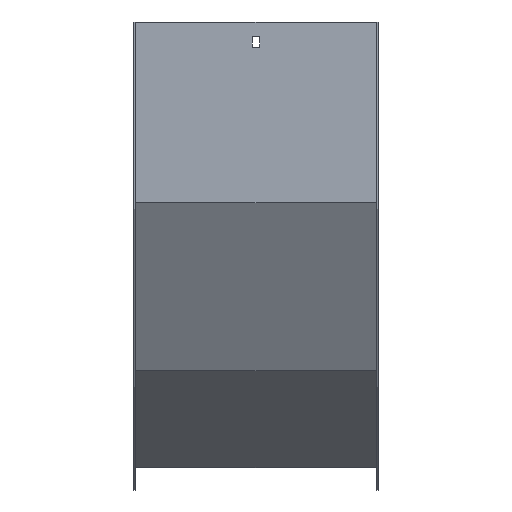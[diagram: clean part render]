
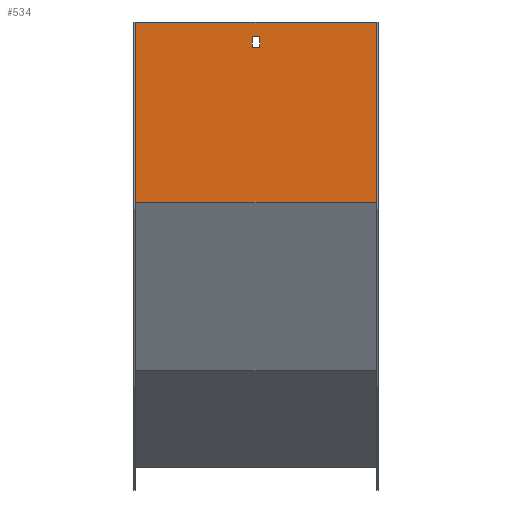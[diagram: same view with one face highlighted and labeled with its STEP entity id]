
A CAD part, front view. The second image highlights one B-rep face of the part: STEP entity #534.
In plain terms, the highlighted planar face has unit normal (0, -1, 0).
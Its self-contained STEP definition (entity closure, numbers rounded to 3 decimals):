
#6 = AXIS2_PLACEMENT_3D ( 'NONE', #124, #102, #404 ) ;
#27 = EDGE_CURVE ( 'NONE', #173, #327, #571, .T. ) ;
#40 = ORIENTED_EDGE ( 'NONE', *, *, #979, .F. ) ;
#81 = CARTESIAN_POINT ( 'NONE',  ( -100., -1.5, 0. ) ) ;
#85 = ORIENTED_EDGE ( 'NONE', *, *, #208, .F. ) ;
#88 = DIRECTION ( 'NONE',  ( -1., 0., 0. ) ) ;
#90 = VERTEX_POINT ( 'NONE', #130 ) ;
#100 = VERTEX_POINT ( 'NONE', #350 ) ;
#102 = DIRECTION ( 'NONE',  ( 0., 1., 0. ) ) ;
#124 = CARTESIAN_POINT ( 'NONE',  ( 101.5, -1.5, 0. ) ) ;
#130 = CARTESIAN_POINT ( 'NONE',  ( -3.25, -1.5, -21. ) ) ;
#133 = EDGE_CURVE ( 'NONE', #327, #90, #850, .T. ) ;
#157 = LINE ( 'NONE', #765, #960 ) ;
#172 = CARTESIAN_POINT ( 'NONE',  ( 100., -1.5, 0. ) ) ;
#173 = VERTEX_POINT ( 'NONE', #831 ) ;
#193 = CARTESIAN_POINT ( 'NONE',  ( 3.25, -1.5, -21. ) ) ;
#198 = DIRECTION ( 'NONE',  ( -1., 0., 0. ) ) ;
#208 = EDGE_CURVE ( 'NONE', #100, #326, #157, .T. ) ;
#233 = ORIENTED_EDGE ( 'NONE', *, *, #27, .F. ) ;
#234 = ORIENTED_EDGE ( 'NONE', *, *, #773, .T. ) ;
#251 = FACE_BOUND ( 'NONE', #704, .T. ) ;
#286 = DIRECTION ( 'NONE',  ( 1., 0., 0. ) ) ;
#297 = DIRECTION ( 'NONE',  ( 0., 0., -1. ) ) ;
#317 = CARTESIAN_POINT ( 'NONE',  ( -100., -1.5, 0. ) ) ;
#326 = VERTEX_POINT ( 'NONE', #543 ) ;
#327 = VERTEX_POINT ( 'NONE', #684 ) ;
#333 = EDGE_LOOP ( 'NONE', ( #234, #85, #858, #596 ) ) ;
#350 = CARTESIAN_POINT ( 'NONE',  ( 100., -1.5, -150.102 ) ) ;
#393 = EDGE_CURVE ( 'NONE', #626, #100, #857, .T. ) ;
#404 = DIRECTION ( 'NONE',  ( 0., 0., 1. ) ) ;
#448 = VECTOR ( 'NONE', #625, 1000. ) ;
#519 = DIRECTION ( 'NONE',  ( -1., 0., 0. ) ) ;
#521 = CARTESIAN_POINT ( 'NONE',  ( 100., -1.5, 0. ) ) ;
#522 = EDGE_CURVE ( 'NONE', #919, #173, #557, .T. ) ;
#530 = VECTOR ( 'NONE', #701, 1000. ) ;
#534 = ADVANCED_FACE ( 'NONE', ( #866, #251 ), #634, .F. ) ;
#543 = CARTESIAN_POINT ( 'NONE',  ( -100., -1.5, -150.102 ) ) ;
#557 = LINE ( 'NONE', #861, #448 ) ;
#560 = VECTOR ( 'NONE', #297, 1000. ) ;
#571 = LINE ( 'NONE', #891, #587 ) ;
#572 = CARTESIAN_POINT ( 'NONE',  ( 101.5, -1.5, 0. ) ) ;
#587 = VECTOR ( 'NONE', #519, 1000. ) ;
#596 = ORIENTED_EDGE ( 'NONE', *, *, #906, .T. ) ;
#625 = DIRECTION ( 'NONE',  ( 0., 0., 1. ) ) ;
#626 = VERTEX_POINT ( 'NONE', #521 ) ;
#634 = PLANE ( 'NONE',  #6 ) ;
#668 = VECTOR ( 'NONE', #691, 1000. ) ;
#684 = CARTESIAN_POINT ( 'NONE',  ( -3.25, -1.5, -12. ) ) ;
#686 = VERTEX_POINT ( 'NONE', #81 ) ;
#689 = VECTOR ( 'NONE', #286, 1000. ) ;
#691 = DIRECTION ( 'NONE',  ( 0., 0., -1. ) ) ;
#701 = DIRECTION ( 'NONE',  ( 0., 0., -1. ) ) ;
#704 = EDGE_LOOP ( 'NONE', ( #864, #40, #803, #233 ) ) ;
#747 = CARTESIAN_POINT ( 'NONE',  ( 101.5, -1.5, -21. ) ) ;
#752 = LINE ( 'NONE', #747, #689 ) ;
#765 = CARTESIAN_POINT ( 'NONE',  ( 101.5, -1.5, -150.102 ) ) ;
#773 = EDGE_CURVE ( 'NONE', #686, #326, #842, .T. ) ;
#795 = LINE ( 'NONE', #572, #822 ) ;
#803 = ORIENTED_EDGE ( 'NONE', *, *, #133, .F. ) ;
#822 = VECTOR ( 'NONE', #198, 1000. ) ;
#831 = CARTESIAN_POINT ( 'NONE',  ( 3.25, -1.5, -12. ) ) ;
#842 = LINE ( 'NONE', #317, #530 ) ;
#843 = CARTESIAN_POINT ( 'NONE',  ( -3.25, -1.5, 0. ) ) ;
#850 = LINE ( 'NONE', #843, #560 ) ;
#857 = LINE ( 'NONE', #172, #668 ) ;
#858 = ORIENTED_EDGE ( 'NONE', *, *, #393, .F. ) ;
#861 = CARTESIAN_POINT ( 'NONE',  ( 3.25, -1.5, 0. ) ) ;
#864 = ORIENTED_EDGE ( 'NONE', *, *, #522, .F. ) ;
#866 = FACE_OUTER_BOUND ( 'NONE', #333, .T. ) ;
#891 = CARTESIAN_POINT ( 'NONE',  ( 101.5, -1.5, -12. ) ) ;
#906 = EDGE_CURVE ( 'NONE', #626, #686, #795, .T. ) ;
#919 = VERTEX_POINT ( 'NONE', #193 ) ;
#960 = VECTOR ( 'NONE', #88, 1000. ) ;
#979 = EDGE_CURVE ( 'NONE', #90, #919, #752, .T. ) ;
